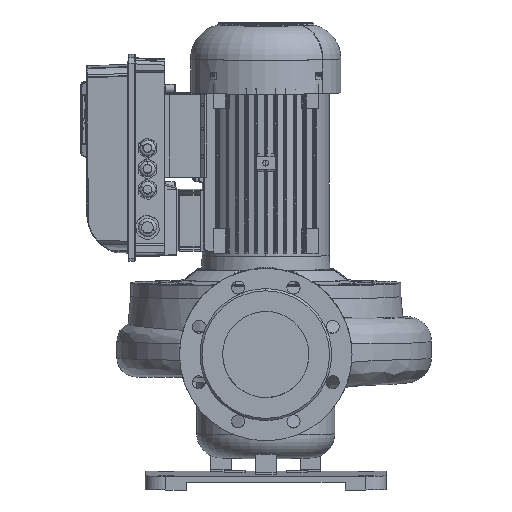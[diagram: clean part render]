
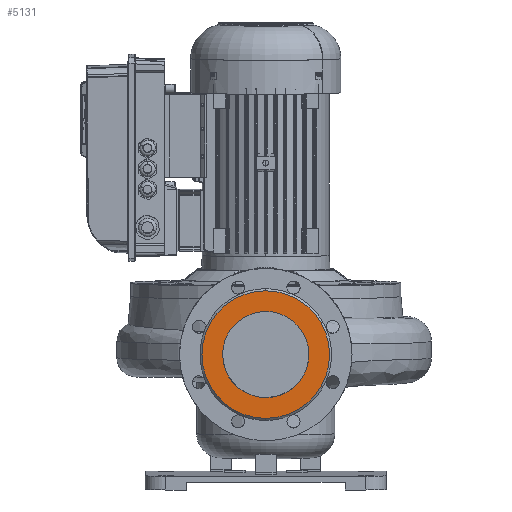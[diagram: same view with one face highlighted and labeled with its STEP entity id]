
A CAD part, front view. The second image highlights one B-rep face of the part: STEP entity #5131.
In plain terms, the highlighted planar face has unit normal (0, -1, -0.021) as drawn and (0, 1, 0) by its records, which use the part's own axes.
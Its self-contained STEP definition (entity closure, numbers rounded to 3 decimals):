
#5131=ADVANCED_FACE('',(#12283,#12284),#12285,.T.);
#5141=EDGE_CURVE('',#12300,#12301,#12302,.T.);
#5203=EDGE_CURVE('',#12413,#12414,#12415,.T.);
#5685=EDGE_CURVE('',#12414,#12413,#13086,.T.);
#5765=EDGE_CURVE('',#12301,#12300,#13174,.T.);
#12283=FACE_OUTER_BOUND('',#24232,.T.);
#12284=FACE_BOUND('',#24233,.T.);
#12285=PLANE('',#24234);
#12300=VERTEX_POINT('',#24588);
#12301=VERTEX_POINT('',#24589);
#12302=CIRCLE('',#24590,92.5);
#12413=VERTEX_POINT('',#24765);
#12414=VERTEX_POINT('',#24766);
#12415=CIRCLE('',#24767,62.5);
#13086=CIRCLE('',#26243,62.5);
#13174=CIRCLE('',#26420,92.5);
#24232=EDGE_LOOP('',(#49083,#49084));
#24233=EDGE_LOOP('',(#49085,#49086));
#24234=AXIS2_PLACEMENT_3D('',#49087,#49088,#49089);
#24588=CARTESIAN_POINT('',(0.,350.0,-92.5));
#24589=CARTESIAN_POINT('',(0.,350.0,92.5));
#24590=AXIS2_PLACEMENT_3D('',#49106,#49107,#49108);
#24765=CARTESIAN_POINT('',(-29.895,350.0,54.886));
#24766=CARTESIAN_POINT('',(29.895,350.0,-54.886));
#24767=AXIS2_PLACEMENT_3D('',#49191,#49192,#49193);
#26243=AXIS2_PLACEMENT_3D('',#49634,#49635,#49636);
#26420=AXIS2_PLACEMENT_3D('',#49737,#49738,#49739);
#49083=ORIENTED_EDGE('',*,*,#5141,.F.);
#49084=ORIENTED_EDGE('',*,*,#5765,.F.);
#49085=ORIENTED_EDGE('',*,*,#5685,.T.);
#49086=ORIENTED_EDGE('',*,*,#5203,.T.);
#49087=CARTESIAN_POINT('',(63.489,350.0,38.014));
#49088=DIRECTION('',(0.0,1.0,0.0));
#49089=DIRECTION('',(0.0,0.0,1.0));
#49106=CARTESIAN_POINT('',(0.,350.0,0.0));
#49107=DIRECTION('',(0.0,-1.0,0.0));
#49108=DIRECTION('',(0.,0.0,-1.0));
#49191=CARTESIAN_POINT('',(0.0,350.0,0.0));
#49192=DIRECTION('',(0.0,-1.0,0.0));
#49193=DIRECTION('',(0.478,0.0,-0.878));
#49634=CARTESIAN_POINT('',(0.0,350.0,0.0));
#49635=DIRECTION('',(0.0,-1.0,0.0));
#49636=DIRECTION('',(0.478,0.0,-0.878));
#49737=CARTESIAN_POINT('',(0.,350.0,0.0));
#49738=DIRECTION('',(0.0,-1.0,0.0));
#49739=DIRECTION('',(0.,0.0,-1.0));
